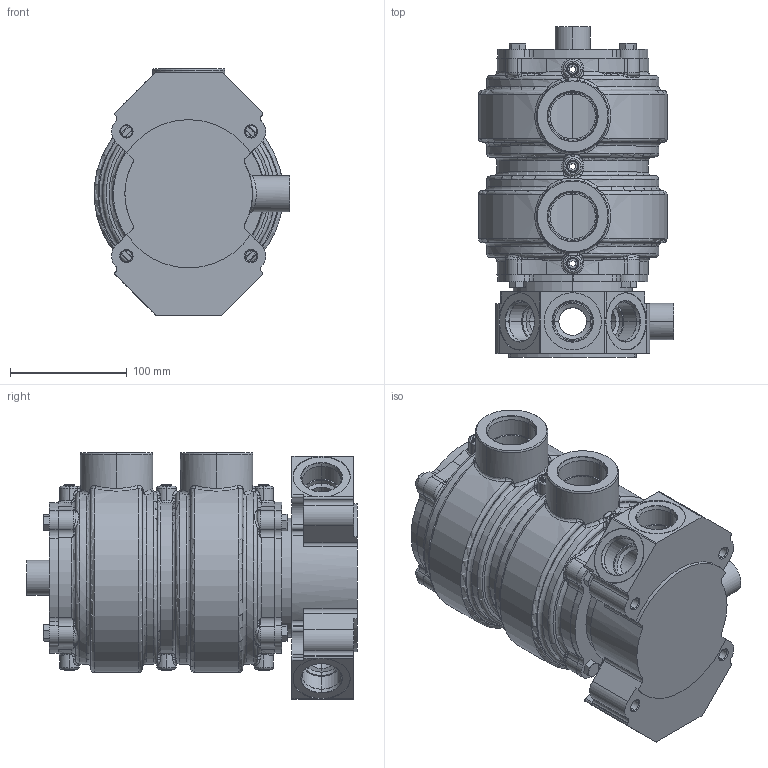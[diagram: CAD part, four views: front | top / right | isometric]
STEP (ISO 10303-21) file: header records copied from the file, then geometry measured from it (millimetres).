
FILE_DESCRIPTION (( 'STEP AP214' ), '1' );
FILE_NAME ('9020-3A-E.STEP', '2026-09-25T21:22:02', ( '' ), ( '' ), 'SwSTEP 2.0', 'SolidWorks 2023', '' );
FILE_SCHEMA (( 'AUTOMOTIVE_DESIGN' ));
Length unit declared in the file: inch
Products named in the file (1): 9020-3A-E
Bounding box: 167.09 x 283.08 x 211.3 mm (x, y, z)
Surface area: 283801.9 mm2 (no closed solid volume)
Topology: 0 solids, 24 shells, 829 faces, 2248 edges, 1423 vertices
Faces by surface type: cylinder 273, plane 176, bspline 145, torus 128, cone 107
Entity records: 57415 total; most frequent: CARTESIAN_POINT 26848, DIRECTION 4095, ORIENTED_EDGE 4075, EDGE_CURVE 2234, AXIS2_PLACEMENT_3D 1715, VERTEX_POINT 1423, CIRCLE 1030, EDGE_LOOP 897
